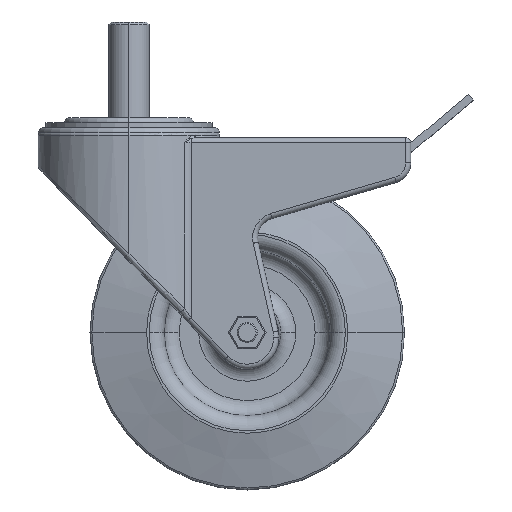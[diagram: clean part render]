
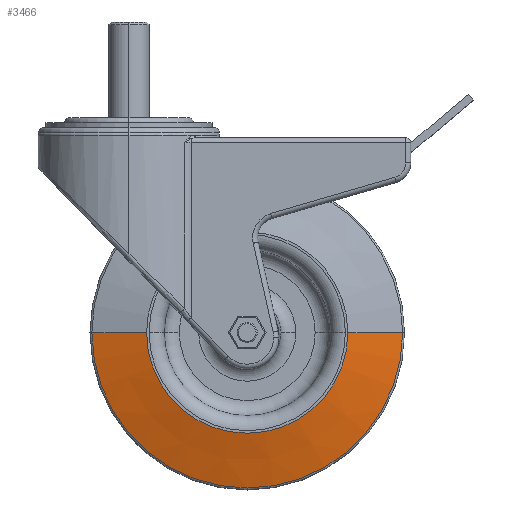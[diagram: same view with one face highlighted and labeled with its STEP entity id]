
A CAD part, top view. The second image highlights one B-rep face of the part: STEP entity #3466.
In plain terms, the highlighted conical face has half-angle 74.525 degrees and reference radius 61.767 mm.
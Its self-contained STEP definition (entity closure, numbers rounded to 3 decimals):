
#351 = CONICAL_SURFACE ( 'NONE', #1038, 61.767, 1.301 ) ;
#400 = CIRCLE ( 'NONE', #4181, 61.767 ) ;
#426 = VECTOR ( 'NONE', #1994, 1000. ) ;
#502 = CARTESIAN_POINT ( 'NONE',  ( 144.767, -71.442, 48.974 ) ) ;
#536 = ORIENTED_EDGE ( 'NONE', *, *, #1119, .T. ) ;
#1038 = AXIS2_PLACEMENT_3D ( 'NONE', #5269, #3155, #5246 ) ;
#1070 = ORIENTED_EDGE ( 'NONE', *, *, #1301, .F. ) ;
#1119 = EDGE_CURVE ( 'NONE', #5753, #4147, #400, .T. ) ;
#1165 = CARTESIAN_POINT ( 'NONE',  ( 83., -71.442, 48.974 ) ) ;
#1202 = VERTEX_POINT ( 'NONE', #5846 ) ;
#1301 = EDGE_CURVE ( 'NONE', #3682, #1202, #4862, .T. ) ;
#1394 = DIRECTION ( 'NONE',  ( 0., 0., 1. ) ) ;
#1508 = EDGE_LOOP ( 'NONE', ( #5899, #1070, #3379, #536 ) ) ;
#1994 = DIRECTION ( 'NONE',  ( 0.964, 0., -0.267 ) ) ;
#2113 = CARTESIAN_POINT ( 'NONE',  ( 21.233, -71.442, 48.974 ) ) ;
#2364 = LINE ( 'NONE', #502, #426 ) ;
#2701 = DIRECTION ( 'NONE',  ( 1., 0., 0. ) ) ;
#2899 = CARTESIAN_POINT ( 'NONE',  ( 83., -71.442, 55. ) ) ;
#3155 = DIRECTION ( 'NONE',  ( 0., 0., -1. ) ) ;
#3232 = EDGE_CURVE ( 'NONE', #1202, #4147, #2364, .T. ) ;
#3379 = ORIENTED_EDGE ( 'NONE', *, *, #4865, .T. ) ;
#3466 = ADVANCED_FACE ( 'NONE', ( #4117 ), #351, .T. ) ;
#3682 = VERTEX_POINT ( 'NONE', #4426 ) ;
#3747 = LINE ( 'NONE', #4422, #6243 ) ;
#4117 = FACE_OUTER_BOUND ( 'NONE', #1508, .T. ) ;
#4147 = VERTEX_POINT ( 'NONE', #4286 ) ;
#4181 = AXIS2_PLACEMENT_3D ( 'NONE', #1165, #6147, #2701 ) ;
#4286 = CARTESIAN_POINT ( 'NONE',  ( 144.767, -71.442, 48.974 ) ) ;
#4422 = CARTESIAN_POINT ( 'NONE',  ( 21.233, -71.442, 48.974 ) ) ;
#4426 = CARTESIAN_POINT ( 'NONE',  ( 43., -71.442, 55. ) ) ;
#4862 = CIRCLE ( 'NONE', #5770, 40. ) ;
#4865 = EDGE_CURVE ( 'NONE', #3682, #5753, #3747, .T. ) ;
#4946 = DIRECTION ( 'NONE',  ( 1., 0., 0. ) ) ;
#5246 = DIRECTION ( 'NONE',  ( -1., 0., 0. ) ) ;
#5269 = CARTESIAN_POINT ( 'NONE',  ( 83., -71.442, 48.974 ) ) ;
#5753 = VERTEX_POINT ( 'NONE', #2113 ) ;
#5770 = AXIS2_PLACEMENT_3D ( 'NONE', #2899, #1394, #4946 ) ;
#5846 = CARTESIAN_POINT ( 'NONE',  ( 123., -71.442, 55. ) ) ;
#5899 = ORIENTED_EDGE ( 'NONE', *, *, #3232, .F. ) ;
#6147 = DIRECTION ( 'NONE',  ( 0., 0., 1. ) ) ;
#6243 = VECTOR ( 'NONE', #6478, 1000. ) ;
#6478 = DIRECTION ( 'NONE',  ( -0.964, 0., -0.267 ) ) ;
